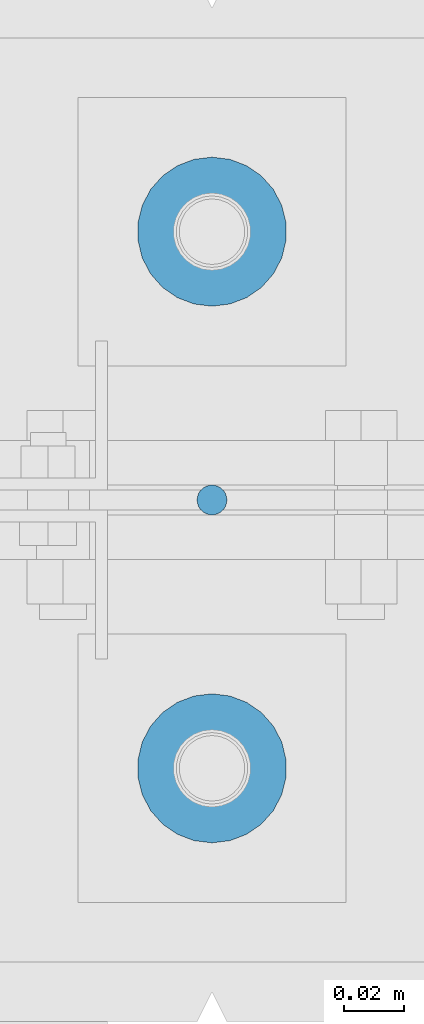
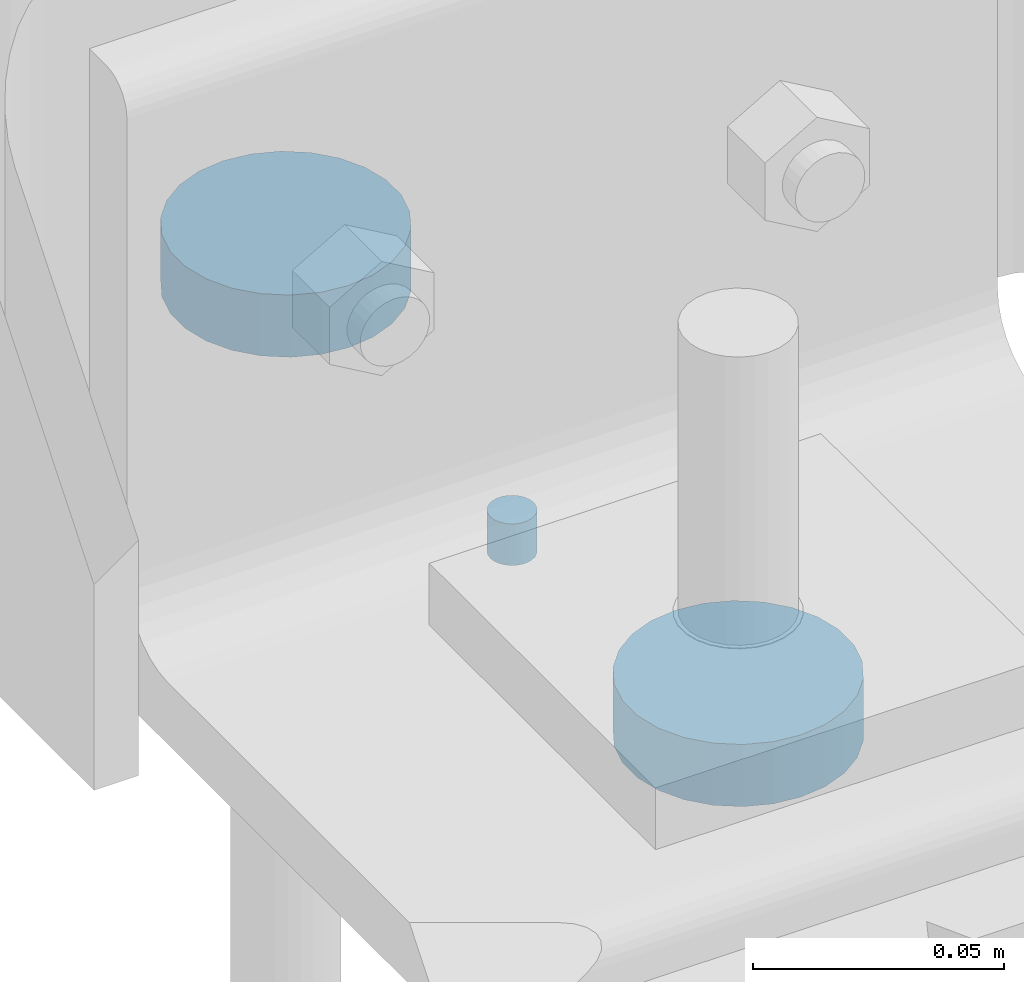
# One storey, part 98 of 123: 3 mechanical fasteners, 3 elements without a shape of their own.
"""IFC2X3 building model written with IfcOpenShell, lengths in millimetres."""

from ifc_helpers import new_model, si_unit, frame, origin_with_axes, origin_2d_with_axis, place, context, subcontext, project, spatial, circle, extrude, source, transform, mapped, material, type_object, element, aggregate, save


model = new_model("IFC2X3")

# Units and contexts
model_context = context("Model", 3, precision=1e-05, world=origin_with_axes())
body_context = subcontext(model_context, "Body", "Model", "MODEL_VIEW")
ifc_project = project(units=[si_unit("LENGTHUNIT", "METRE", prefix="MILLI"), si_unit("AREAUNIT", "SQUARE_METRE"), si_unit("VOLUMEUNIT", "CUBIC_METRE"), si_unit("MASSUNIT", "GRAM", prefix="KILO"), si_unit("TIMEUNIT", "SECOND"), si_unit("PLANEANGLEUNIT", "RADIAN"), si_unit("SOLIDANGLEUNIT", "STERADIAN"), si_unit("THERMODYNAMICTEMPERATUREUNIT", "DEGREE_CELSIUS"), si_unit("LUMINOUSINTENSITYUNIT", "LUMEN")], contexts=[model_context])

# Site, building, storey
site_placement = place(None, origin_with_axes())
site = spatial("IfcSite", under=ifc_project, at=site_placement, Name="Undefined", CompositionType="ELEMENT")
building_placement = place(site_placement, origin_with_axes())
building = spatial("IfcBuilding", under=site, at=building_placement, Name="Undefined", CompositionType="ELEMENT")
storey_placement = place(building_placement, origin_with_axes())
storey = spatial("IfcBuildingStorey", under=building, at=storey_placement, Name="Undefined", CompositionType="ELEMENT", Elevation=0.0)

# Assembly, mechanical fastener
assembly_1_placement = place(storey_placement, origin_with_axes())
assembly_1 = element("IfcElementAssembly", 1, at=assembly_1_placement, inside=storey, Name="Steel Assembly", AssemblyPlace="NOTDEFINED", PredefinedType="RIGID_FRAME")
ifc_material = material(Name="6.8")
discrete_accessory_type = type_object("IfcDiscreteAccessoryType", Name="Bolt assembly")
shared_shape_1 = source(origin_with_axes(), body_context, "Body", "SweptSolid", [
    extrude(circle(Radius=5.0, at=origin_2d_with_axis()), frame((0.0, 0.0, 0.0), z_axis=(0.0, 1.0, 0.0), x_axis=(1.0, 0.0, 0.0)), (0.0, 0.0, 1.0), 10.1),
])
mechanical_fastener_1_placement = place(assembly_1_placement, frame((-45.0, 7600.00000007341, -250.0), z_axis=(0.0, 1.0, 0.0), x_axis=(1.0, 0.0, 0.0)))
mechanical_fastener_1 = element("IfcMechanicalFastener", 2, at=mechanical_fastener_1_placement, type_object=discrete_accessory_type, material=ifc_material, Name="Bolt assembly", NominalDiameter=8.0, NominalLength=10.0, context=body_context, shape_type="MappedRepresentation", body=[
    mapped(shared_shape_1, transform((0.0, 0.0, 0.0))),
])
aggregate(assembly_1, [mechanical_fastener_1])

assembly_2_placement = place(storey_placement, origin_with_axes())
assembly_2 = element("IfcElementAssembly", 3, at=assembly_2_placement, inside=storey, Name="Steel Assembly", AssemblyPlace="NOTDEFINED", PredefinedType="RIGID_FRAME")
shared_shape_2 = source(origin_with_axes(), body_context, "Body", "SweptSolid", [
    extrude(circle(Radius=25.0, at=origin_2d_with_axis()), frame((0.0, -15.0, 0.0), z_axis=(0.0, 1.0, 0.0), x_axis=(1.0, 0.0, 0.0)), (0.0, 0.0, 1.0), 15.1),
])
mechanical_fastener_2_placement = place(assembly_2_placement, frame((-45.0, 7510.0, -250.0), z_axis=(-1.0, 0.0, 0.0), x_axis=(0.0, 1.0, 0.0)))
mechanical_fastener_2 = element("IfcMechanicalFastener", 4, at=mechanical_fastener_2_placement, type_object=discrete_accessory_type, material=ifc_material, Name="Bolt assembly", NominalDiameter=30.0, NominalLength=15.0, context=body_context, shape_type="MappedRepresentation", body=[
    mapped(shared_shape_2, transform((0.0, 0.0, 0.0))),
])
aggregate(assembly_2, [mechanical_fastener_2])

assembly_3_placement = place(storey_placement, origin_with_axes())
assembly_3 = element("IfcElementAssembly", 5, at=assembly_3_placement, inside=storey, Name="Steel Assembly", AssemblyPlace="NOTDEFINED", PredefinedType="RIGID_FRAME")
mechanical_fastener_3_placement = place(assembly_3_placement, frame((-45.0, 7690.0, -250.0), z_axis=(1.0, 0.0, 0.0), x_axis=(0.0, -1.0, 0.0)))
mechanical_fastener_3 = element("IfcMechanicalFastener", 6, at=mechanical_fastener_3_placement, type_object=discrete_accessory_type, material=ifc_material, Name="Bolt assembly", NominalDiameter=30.0, NominalLength=15.0, context=body_context, shape_type="MappedRepresentation", body=[
    mapped(shared_shape_2, transform((0.0, 0.0, 0.0))),
])
aggregate(assembly_3, [mechanical_fastener_3])

save(model, "model.ifc")
